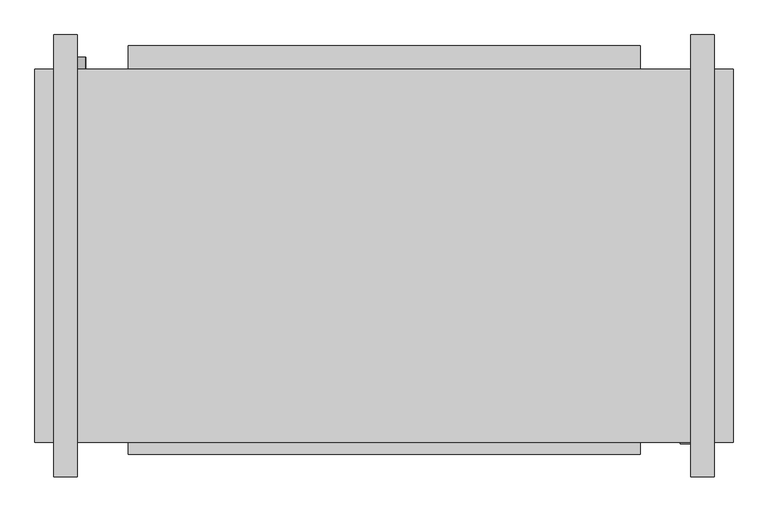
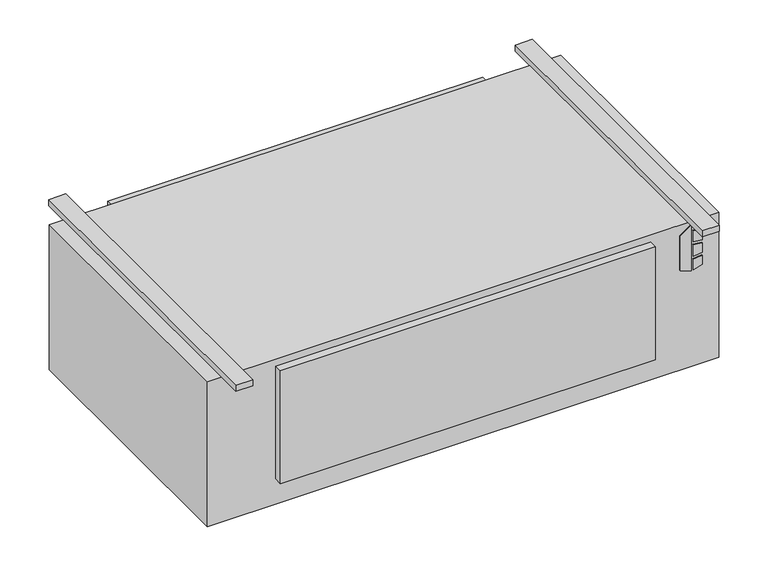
"""IFC4 building model written with IfcOpenShell, lengths in millimetres: proxy geometry, Concealed_High_Capacity_Horizontal_Cabinet_Fan_Coil_Unit_-_HXY_-_IEC_-_4-Pipe_LH_2022 : Size 18 - 277v/60Hz/1Ph - 6/2 Coil."""

from ifc_helpers import new_model, si_unit, point, frame, frame_2d, origin, origin_with_axes, place, context, project, spatial, polyline, circle_curve, trimmed, segment, composite_curve, outline, extrude, source, transform, mapped, element, save


def mechanical_equipment_768bd8f3(model_context):
    return source(origin(), model_context, "Body", "SweptSolid", [
        extrude(outline(polyline([(-142.4519297, 798.5868862), (-152.4, 830.7602728), (-10.2290756, 830.7602728), (-33.2510817, 798.5868862), (-142.4519297, 798.5868862)])), frame((0.0, -649.2875, 0.0), z_axis=(0.0, 1.0, 0.0), x_axis=(0.0, 0.0, 1.0)), (0.0, 0.0, 1.0), 3.175),
        extrude(outline(polyline([(-63.4526443, 837.5186058), (-66.6550368, 863.6), (-37.4261958, 863.6), (-29.3617807, 837.5186058), (-63.4526443, 837.5186058)])), frame((0.0, -649.2875, 0.0), z_axis=(0.0, 1.0, 0.0), x_axis=(0.0, 0.0, 1.0)), (0.0, 0.0, 1.0), 3.175),
        extrude(outline(polyline([(-115.3161712, 863.6), (-118.9816721, 837.5186058), (-152.4, 837.5186058), (-143.7657628, 863.6), (-115.3161712, 863.6)])), frame((0.0, -649.2875, 0.0), z_axis=(0.0, 1.0, 0.0), x_axis=(0.0, 0.0, 1.0)), (0.0, 0.0, 1.0), 3.175),
        extrude(outline(polyline([(-76.0010097, 863.6), (-73.7191834, 837.5186058), (-109.6567319, 837.5186058), (-106.9154669, 863.6), (-76.0010097, 863.6)])), frame((0.0, -649.2875, 0.0), z_axis=(0.0, 1.0, 0.0), x_axis=(0.0, 0.0, 1.0)), (0.0, 0.0, 1.0), 3.175),
        extrude(outline(composite_curve([segment(trimmed(circle_curve(frame_2d((-406.4, -508.0)), 9.525), [point((-406.4, -517.525))], [point((-406.4, -498.475))], False, "CARTESIAN"), True, "CONTINUOUS"), segment(trimmed(circle_curve(frame_2d((-406.4, -508.0)), 9.525), [point((-406.4, -498.475))], [point((-406.4, -517.525))], False, "CARTESIAN"), True, "CONTINUOUS")], self_intersect=False)), frame((0.0, 169.8625, 0.0), z_axis=(0.0, 1.0, 0.0), x_axis=(0.0, 0.0, 1.0)), (0.0, 0.0, 1.0), 25.4),
        extrude(outline(composite_curve([segment(trimmed(circle_curve(frame_2d((-330.2, -508.0)), 7.9375), [point((-330.2, -515.9375))], [point((-330.2, -500.0625))], False, "CARTESIAN"), True, "CONTINUOUS"), segment(trimmed(circle_curve(frame_2d((-330.2, -508.0)), 7.9375), [point((-330.2, -500.0625))], [point((-330.2, -515.9375))], False, "CARTESIAN"), True, "CONTINUOUS")], self_intersect=False)), frame((0.0, 169.8625, 0.0), z_axis=(0.0, 1.0, 0.0), x_axis=(0.0, 0.0, 1.0)), (0.0, 0.0, 1.0), 25.4),
        extrude(outline(composite_curve([segment(trimmed(circle_curve(frame_2d((-254.0, -508.0)), 7.9375), [point((-254.0, -515.9375))], [point((-254.0, -500.0625))], False, "CARTESIAN"), True, "CONTINUOUS"), segment(trimmed(circle_curve(frame_2d((-254.0, -508.0)), 7.9375), [point((-254.0, -500.0625))], [point((-254.0, -515.9375))], False, "CARTESIAN"), True, "CONTINUOUS")], self_intersect=False)), frame((0.0, 169.8625, 0.0), z_axis=(0.0, 1.0, 0.0), x_axis=(0.0, 0.0, 1.0)), (0.0, 0.0, 1.0), 25.4),
        extrude(outline(composite_curve([segment(trimmed(circle_curve(frame_2d((-177.8, -508.0)), 7.9375), [point((-177.8, -515.9375))], [point((-177.8, -500.0625))], False, "CARTESIAN"), True, "CONTINUOUS"), segment(trimmed(circle_curve(frame_2d((-177.8, -508.0)), 7.9375), [point((-177.8, -500.0625))], [point((-177.8, -515.9375))], False, "CARTESIAN"), True, "CONTINUOUS")], self_intersect=False)), frame((0.0, 169.8625, 0.0), z_axis=(0.0, 1.0, 0.0), x_axis=(0.0, 0.0, 1.0)), (0.0, 0.0, 1.0), 25.4),
        extrude(outline(composite_curve([segment(trimmed(circle_curve(frame_2d((-101.6, -508.0)), 7.9375), [point((-101.6, -515.9375))], [point((-101.6, -500.0625))], False, "CARTESIAN"), True, "CONTINUOUS"), segment(trimmed(circle_curve(frame_2d((-101.6, -508.0)), 7.9375), [point((-101.6, -500.0625))], [point((-101.6, -515.9375))], False, "CARTESIAN"), True, "CONTINUOUS")], self_intersect=False)), frame((0.0, 169.8625, 0.0), z_axis=(0.0, 1.0, 0.0), x_axis=(0.0, 0.0, 1.0)), (0.0, 0.0, 1.0), 25.4),
        extrude(outline(polyline([(914.4, 169.8625), (914.4, -646.1125), (-609.6, -646.1125), (-609.6, 169.8625), (914.4, 169.8625)])), frame((0.0, 0.0, -457.2), z_axis=(0.0, 0.0, 1.0), x_axis=(1.0, 0.0, 0.0)), (0.0, 0.0, 1.0), 457.2),
        extrude(outline(polyline([(-406.4, 220.6625), (711.2, 220.6625), (711.2, 169.8625), (-406.4, 169.8625), (-406.4, 220.6625)])), frame((0.0, 0.0, -377.825), z_axis=(0.0, 0.0, 1.0), x_axis=(1.0, 0.0, 0.0)), (0.0, 0.0, 1.0), 349.25),
        extrude(outline(polyline([(-517.525, 244.475), (-517.525, -720.725), (-568.325, -720.725), (-568.325, 244.475), (-517.525, 244.475)])), origin_with_axes(), (0.0, 0.0, 1.0), 19.05),
        extrude(outline(polyline([(873.125, 244.475), (873.125, -720.725), (822.325, -720.725), (822.325, 244.475), (873.125, 244.475)])), origin_with_axes(), (0.0, 0.0, 1.0), 19.05),
        extrude(outline(polyline([(711.2, -671.5125), (-406.4, -671.5125), (-406.4, -646.1125), (711.2, -646.1125), (711.2, -671.5125)])), frame((0.0, 0.0, -377.825), z_axis=(0.0, 0.0, 1.0), x_axis=(1.0, 0.0, 0.0)), (0.0, 0.0, 1.0), 355.6),
    ])


if __name__ == "__main__":
    model = new_model("IFC4")
    model_context = context("Model", 3, world=origin())
    ifc_project = project(units=[si_unit("LENGTHUNIT", "METRE", prefix="MILLI")], contexts=[model_context])
    site = spatial("IfcSite", under=ifc_project)
    building = spatial("IfcBuilding", under=site)
    placement = place(None, origin())
    mechanical_equipment_shape = mechanical_equipment_768bd8f3(model_context)
    element("IfcBuildingElementProxy", 1, Name="Concealed_High_Capacity_Horizontal_Cabinet_Fan_Coil_Unit_-_HXY_-_IEC_-_4-Pipe_LH_2022 : Size 18 - 277v/60Hz/1Ph - 6/2 Coil", ObjectType="Concealed_High_Capacity_Horizontal_Cabinet_Fan_Coil_Unit_-_HXY_-_IEC_-_4-Pipe_LH_2022 : Size 18 - 277v/60Hz/1Ph - 6/2 Coil", at=placement, inside=building, context=model_context, shape_type="MappedRepresentation", body=[
        mapped(mechanical_equipment_shape, transform((0.0, 0.0, 0.0), x_axis=(1.0, 0.0, 0.0), y_axis=(0.0, 1.0, 0.0), z_axis=(0.0, 0.0, 1.0))),
    ])
    save(model, "model.ifc")
